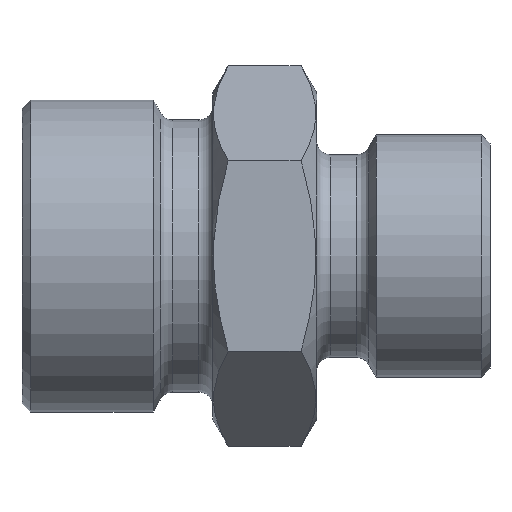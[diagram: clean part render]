
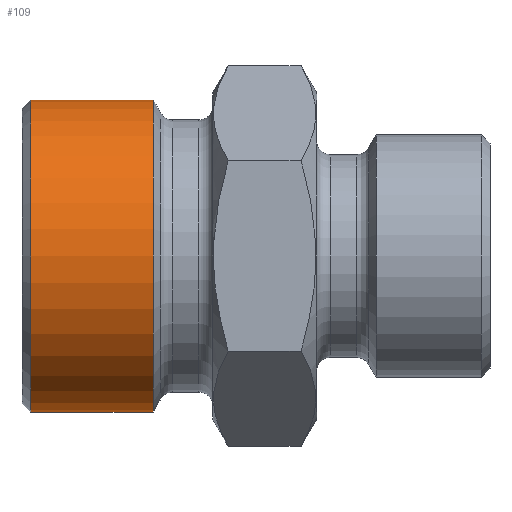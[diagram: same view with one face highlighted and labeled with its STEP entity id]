
A CAD part, front view. The second image highlights one B-rep face of the part: STEP entity #109.
In plain terms, the highlighted cylindrical face has radius 9 mm (diameter 18 mm), a full revolution.
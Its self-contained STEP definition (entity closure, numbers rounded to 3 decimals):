
#109 = ADVANCED_FACE( '', ( #239, #240 ), #241, .T. );
#239 = FACE_OUTER_BOUND( '', #372, .T. );
#240 = FACE_OUTER_BOUND( '', #373, .T. );
#241 = CYLINDRICAL_SURFACE( '', #374, 9. );
#372 = EDGE_LOOP( '', ( #576 ) );
#373 = EDGE_LOOP( '', ( #577 ) );
#374 = AXIS2_PLACEMENT_3D( '', #578, #579, #580 );
#576 = ORIENTED_EDGE( '', *, *, #671, .T. );
#577 = ORIENTED_EDGE( '', *, *, #688, .T. );
#578 = CARTESIAN_POINT( '', ( -60., 0., 0. ) );
#579 = DIRECTION( '', ( 1., 0., 0. ) );
#580 = DIRECTION( '', ( 0., 0., 1. ) );
#671 = EDGE_CURVE( '', #777, #777, #778, .F. );
#688 = EDGE_CURVE( '', #801, #801, #802, .T. );
#777 = VERTEX_POINT( '', #1030 );
#778 = CIRCLE( '', #1031, 9. );
#801 = VERTEX_POINT( '', #1054 );
#802 = CIRCLE( '', #1055, 9. );
#1030 = CARTESIAN_POINT( '', ( -26.5, 0., 9. ) );
#1031 = AXIS2_PLACEMENT_3D( '', #1121, #1122, #1123 );
#1054 = CARTESIAN_POINT( '', ( -19.433, 0., 9. ) );
#1055 = AXIS2_PLACEMENT_3D( '', #1142, #1143, #1144 );
#1121 = CARTESIAN_POINT( '', ( -26.5, 0., 0. ) );
#1122 = DIRECTION( '', ( -1., 0., 0. ) );
#1123 = DIRECTION( '', ( 0., 0., 1. ) );
#1142 = CARTESIAN_POINT( '', ( -19.433, 0., 0. ) );
#1143 = DIRECTION( '', ( -1., 0., 0. ) );
#1144 = DIRECTION( '', ( 0., 0., 1. ) );
